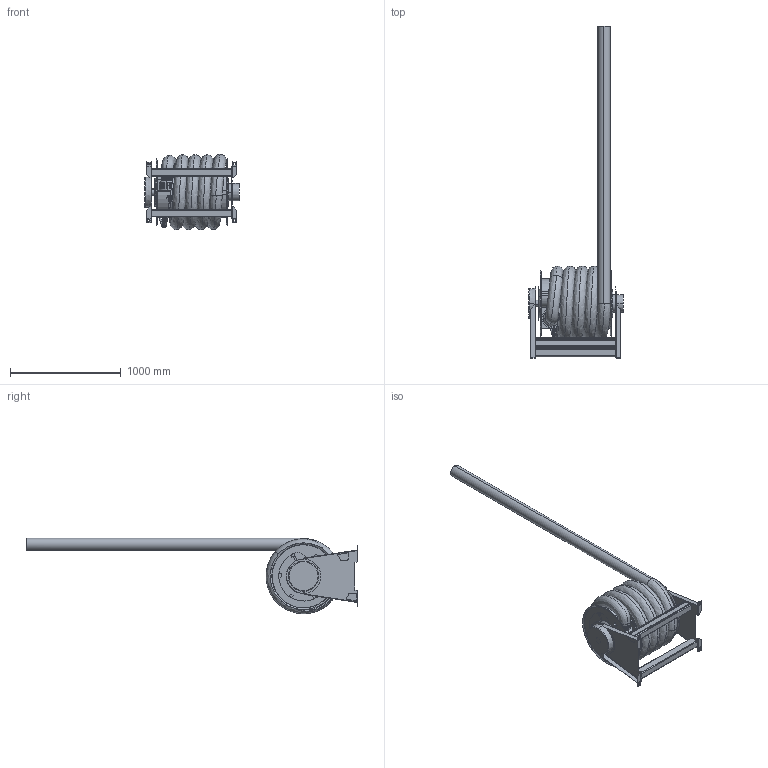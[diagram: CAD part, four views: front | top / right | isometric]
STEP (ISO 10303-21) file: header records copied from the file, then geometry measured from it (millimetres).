
FILE_DESCRIPTION((''),'2;1');
FILE_NAME('ASE_65_100_10','2016-12-13T',('Martin Eriksson'),(''),'CREO PARAMETRIC BY PTC INC, 2016130','CREO PARAMETRIC BY PTC INC, 2016130','');
FILE_SCHEMA(('AUTOMOTIVE_DESIGN { 1 0 10303 214 1 1 1 1 }'));
Length unit declared in the file: millimetre
Products named in the file (21): 110534; 110536; 110801; 110541; 112850; 110528; 110591; 110651; 110618; 110685; 110628; G_ASE_DUMMY; 124129; G_ASL-EVO_150CON_BRACKET; GUIDE_100; 110660; 124298; ASL-EVO_65_100_115; SPRING_DUMMY; AG_HOSE_100_115_10; ASE_65_100_10
Assembly tree (25 placements, depth 4):
  ASE_65_100_10
    110541
      110534
      110536
      110801  x2
    112850  x2
    ASL-EVO_65_100_115
      110528  x2
      110591
      110651
      110628
        110618
        110685
      G_ASL-EVO_150CON_BRACKET
        G_ASE_DUMMY
        124129
      GUIDE_100
      110660  x2
      124298
    SPRING_DUMMY
    124298
    AG_HOSE_100_115_10
Bounding box: 853.5 x 2991 x 679.99 mm (x, y, z)
Volume: 205314038.3 mm3; surface area: 10594842.4 mm2
Topology: 21 solids, 26 shells, 843 faces, 1984 edges, 1193 vertices
Faces by surface type: plane 415, cylinder 257, torus 94, cone 42, bspline 35
Entity records: 37101 total; most frequent: CARTESIAN_POINT 11320, DIRECTION 3130, ORIENTED_EDGE 2860, EDGE_CURVE 1438, PRESENTATION_STYLE_ASSIGNMENT 1362, STYLED_ITEM 1361, AXIS2_PLACEMENT_3D 1144, CURVE_STYLE 1097
